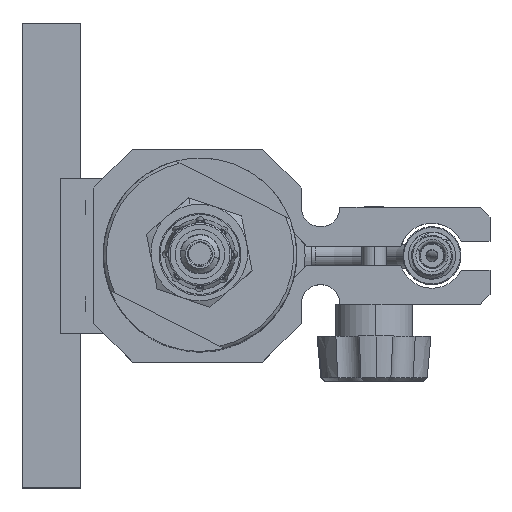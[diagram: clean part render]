
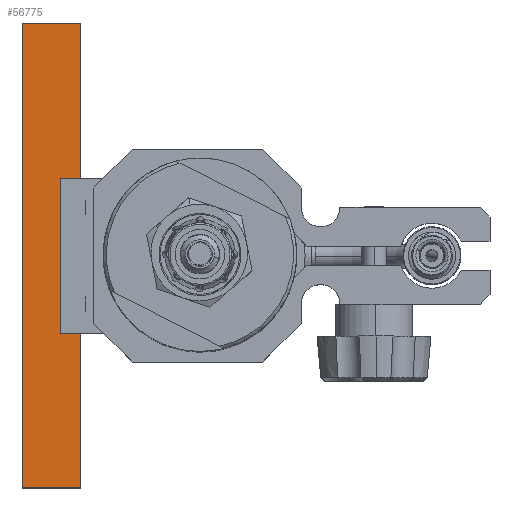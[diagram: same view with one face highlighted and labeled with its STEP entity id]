
A CAD part, top view. The second image highlights one B-rep face of the part: STEP entity #56775.
In plain terms, the highlighted planar face has unit normal (0, 0, 1).
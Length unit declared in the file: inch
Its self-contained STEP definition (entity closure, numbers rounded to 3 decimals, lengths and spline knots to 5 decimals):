
#1220 = ORIENTED_EDGE ( 'NONE', *, *, #83612, .T. ) ;
#5934 = DIRECTION ( 'NONE',  ( 1., 0., 0. ) ) ;
#8776 = AXIS2_PLACEMENT_3D ( 'NONE', #11880, #18976, #5934 ) ;
#9870 = EDGE_CURVE ( 'NONE', #31207, #79632, #86723, .T. ) ;
#10672 = CARTESIAN_POINT ( 'NONE',  ( -0.7755, -1.5, -0.05975 ) ) ;
#11880 = CARTESIAN_POINT ( 'NONE',  ( -1.1505, 1.5, -0.05975 ) ) ;
#14655 = CARTESIAN_POINT ( 'NONE',  ( -1.1505, 1.5, -0.05975 ) ) ;
#18554 = ORIENTED_EDGE ( 'NONE', *, *, #40934, .F. ) ;
#18976 = DIRECTION ( 'NONE',  ( 0., 0., -1. ) ) ;
#22977 = CARTESIAN_POINT ( 'NONE',  ( -1.1505, 1.5, -0.05975 ) ) ;
#31050 = CARTESIAN_POINT ( 'NONE',  ( -1.1505, -1.5, -0.05975 ) ) ;
#31207 = VERTEX_POINT ( 'NONE', #10672 ) ;
#37576 = EDGE_LOOP ( 'NONE', ( #50984, #78140, #18554, #1220 ) ) ;
#40618 = VECTOR ( 'NONE', #67738, 39.37008 ) ;
#40934 = EDGE_CURVE ( 'NONE', #67722, #77239, #44054, .T. ) ;
#42696 = VECTOR ( 'NONE', #70273, 39.37008 ) ;
#44054 = LINE ( 'NONE', #14655, #77911 ) ;
#50661 = VECTOR ( 'NONE', #57633, 39.37008 ) ;
#50984 = ORIENTED_EDGE ( 'NONE', *, *, #9870, .T. ) ;
#52318 = EDGE_CURVE ( 'NONE', #77239, #79632, #87200, .T. ) ;
#52853 = FACE_OUTER_BOUND ( 'NONE', #37576, .T. ) ;
#55332 = CARTESIAN_POINT ( 'NONE',  ( -0.7755, 1.5, -0.05975 ) ) ;
#56775 = ADVANCED_FACE ( 'NONE', ( #52853 ), #65777, .F. ) ;
#57633 = DIRECTION ( 'NONE',  ( 0., 1., 0. ) ) ;
#62732 = CARTESIAN_POINT ( 'NONE',  ( -1.1505, 1.5, -0.05975 ) ) ;
#64447 = CARTESIAN_POINT ( 'NONE',  ( -0.7755, 1.5, -0.05975 ) ) ;
#65777 = PLANE ( 'NONE',  #8776 ) ;
#67722 = VERTEX_POINT ( 'NONE', #31050 ) ;
#67738 = DIRECTION ( 'NONE',  ( 1., 0., 0. ) ) ;
#69181 = LINE ( 'NONE', #78358, #40618 ) ;
#70273 = DIRECTION ( 'NONE',  ( 1., 0., 0. ) ) ;
#75313 = DIRECTION ( 'NONE',  ( 0., 1., 0. ) ) ;
#77239 = VERTEX_POINT ( 'NONE', #62732 ) ;
#77911 = VECTOR ( 'NONE', #75313, 39.37008 ) ;
#78140 = ORIENTED_EDGE ( 'NONE', *, *, #52318, .F. ) ;
#78358 = CARTESIAN_POINT ( 'NONE',  ( -1.1505, -1.5, -0.05975 ) ) ;
#79632 = VERTEX_POINT ( 'NONE', #55332 ) ;
#83612 = EDGE_CURVE ( 'NONE', #67722, #31207, #69181, .T. ) ;
#86723 = LINE ( 'NONE', #64447, #50661 ) ;
#87200 = LINE ( 'NONE', #22977, #42696 ) ;
